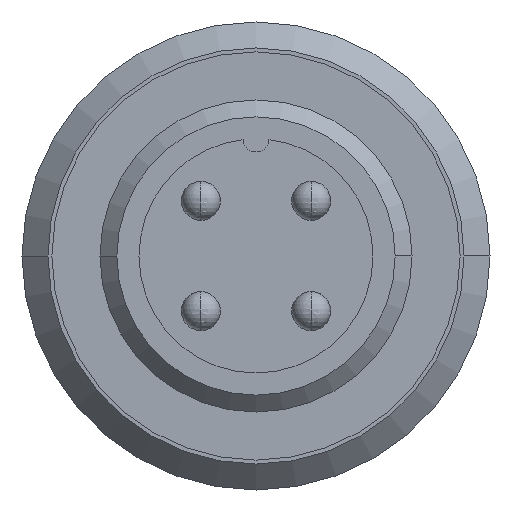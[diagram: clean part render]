
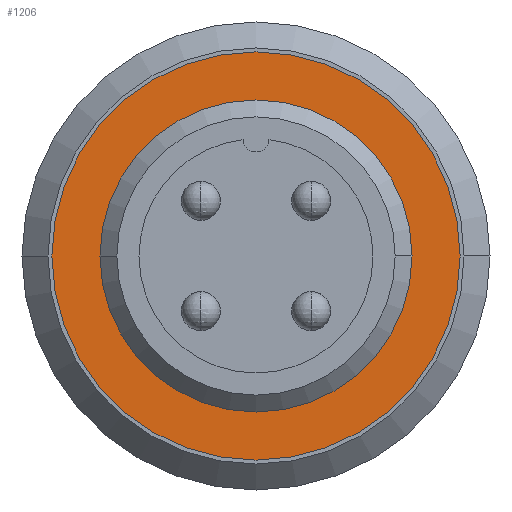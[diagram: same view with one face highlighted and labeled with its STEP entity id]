
A CAD part, left-side view. The second image highlights one B-rep face of the part: STEP entity #1206.
In plain terms, the highlighted planar face has unit normal (-1, 0, 0).
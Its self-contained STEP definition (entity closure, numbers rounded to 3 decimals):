
#449=CARTESIAN_POINT('',(-92.8,7.85,0.0));
#450=VERTEX_POINT('',#449);
#459=CARTESIAN_POINT('',(-92.8,-7.85,0.));
#460=VERTEX_POINT('',#459);
#461=CARTESIAN_POINT('',(-92.8,0.0,0.0));
#462=DIRECTION('',(1.0,0.0,0.0));
#463=DIRECTION('',(0.0,1.0,0.0));
#464=AXIS2_PLACEMENT_3D('',#461,#462,#463);
#465=CIRCLE('',#464,7.85);
#466=EDGE_CURVE('',#450,#460,#465,.T.);
#493=CARTESIAN_POINT('',(-92.8,5.35,0.0));
#494=VERTEX_POINT('',#493);
#510=CARTESIAN_POINT('',(-92.8,-5.35,0.));
#511=VERTEX_POINT('',#510);
#518=CARTESIAN_POINT('',(-92.8,0.0,0.0));
#519=DIRECTION('',(1.0,0.0,0.0));
#520=DIRECTION('',(0.0,1.0,0.0));
#521=AXIS2_PLACEMENT_3D('',#518,#519,#520);
#522=CIRCLE('',#521,5.35);
#523=EDGE_CURVE('',#494,#511,#522,.T.);
#1175=CARTESIAN_POINT('',(-92.8,0.0,0.0));
#1176=DIRECTION('',(1.0,0.0,0.0));
#1177=DIRECTION('',(0.0,1.0,0.0));
#1178=AXIS2_PLACEMENT_3D('',#1175,#1176,#1177);
#1179=CIRCLE('',#1178,5.35);
#1180=EDGE_CURVE('',#511,#494,#1179,.T.);
#1187=CARTESIAN_POINT('',(-92.8,6.6,0.0));
#1188=DIRECTION('',(-1.0,0.0,0.0));
#1189=DIRECTION('',(0.0,0.0,1.0));
#1190=AXIS2_PLACEMENT_3D('',#1187,#1188,#1189);
#1191=PLANE('',#1190);
#1192=ORIENTED_EDGE('',*,*,#466,.F.);
#1193=CARTESIAN_POINT('',(-92.8,0.0,0.0));
#1194=DIRECTION('',(1.0,0.0,0.0));
#1195=DIRECTION('',(0.0,1.0,0.0));
#1196=AXIS2_PLACEMENT_3D('',#1193,#1194,#1195);
#1197=CIRCLE('',#1196,7.85);
#1198=EDGE_CURVE('',#460,#450,#1197,.T.);
#1199=ORIENTED_EDGE('',*,*,#1198,.F.);
#1200=EDGE_LOOP('',(#1192,#1199));
#1201=FACE_OUTER_BOUND('',#1200,.T.);
#1202=ORIENTED_EDGE('',*,*,#523,.T.);
#1203=ORIENTED_EDGE('',*,*,#1180,.T.);
#1204=EDGE_LOOP('',(#1202,#1203));
#1205=FACE_BOUND('',#1204,.T.);
#1206=ADVANCED_FACE('',(#1201,#1205),#1191,.T.);
